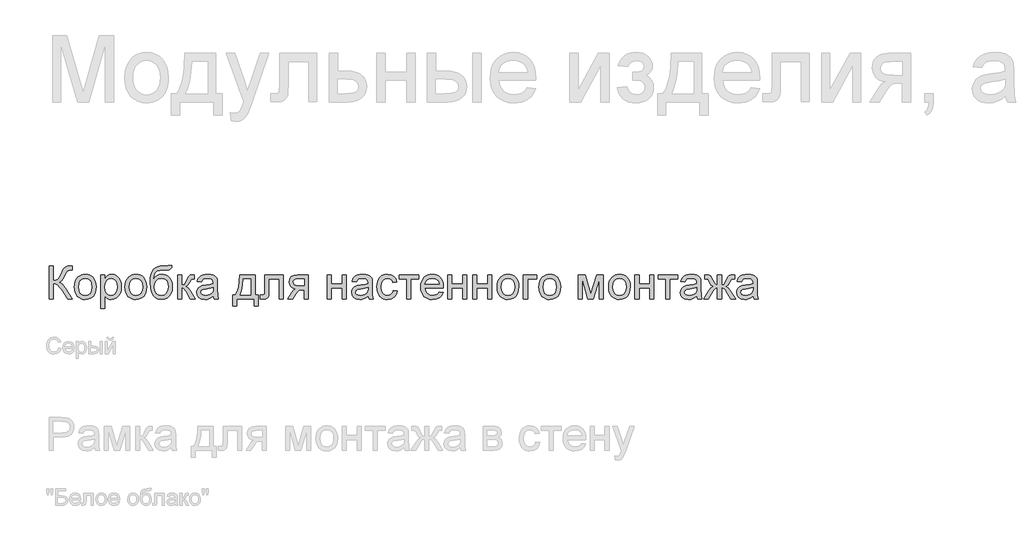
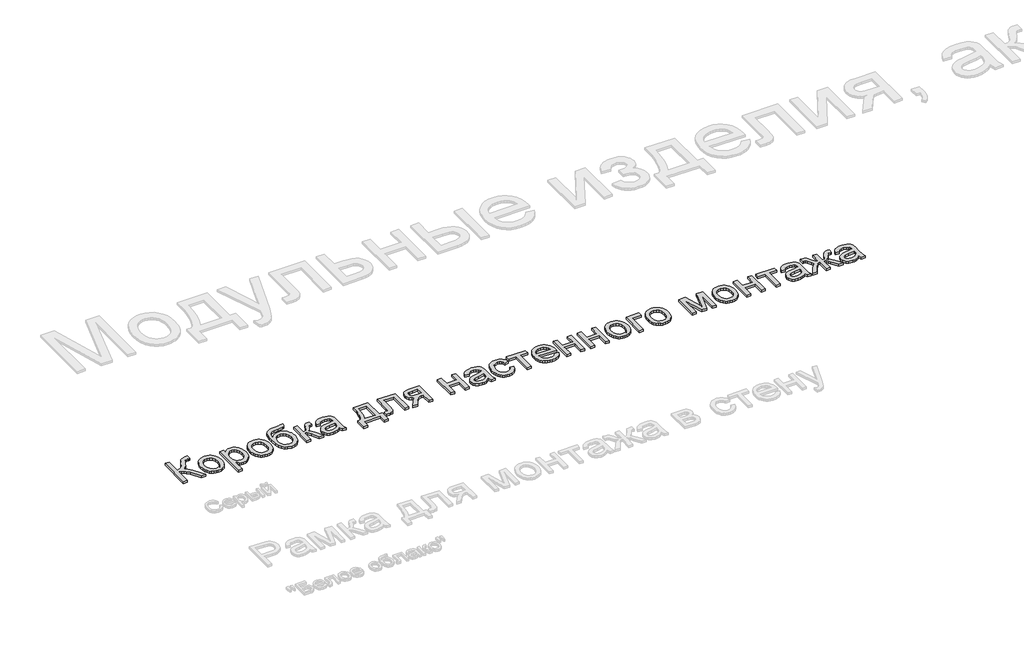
# One storey, part 95 of 168: 1 proxy.
"""IFC4 building model written with IfcOpenShell, lengths in millimetres."""

from ifc_helpers import new_model, si_unit, origin, origin_with_axes, place, context, project, spatial, polyline, outline, extrude, element, save

model = new_model("IFC4")

# Units and contexts
model_context = context("Model", 3, world=origin())
ifc_project = project(units=[si_unit("LENGTHUNIT", "METRE", prefix="MILLI")], contexts=[model_context])

# Site, building, storey
site = spatial("IfcSite", under=ifc_project)
building = spatial("IfcBuilding", under=site)
storey = spatial("IfcBuildingStorey", under=building, Name="Этаж 01", Elevation=0.0)

# Proxy
placement = place(None, origin())
element("IfcBuildingElementProxy", 1, Name="300 мм Arial 2", ObjectType="300 мм Arial 2", at=placement, inside=storey, context=model_context, shape_type="SweptSolid", body=[
    extrude(outline(polyline([(32899.0945017, -30665.4933673), (32936.765618, -30665.4933673), (32936.765618, -30797.3422744), (32962.2690373, -30794.8498738), (32978.8881064, -30787.3726723), (32992.3249963, -30769.7787159), (33008.2818778, -30736.9360507), (33029.0672106, -30694.8135623), (33039.0919949, -30683.4000234), (33052.6116582, -30673.9546532), (33068.6605103, -30667.6086888), (33086.2728608, -30665.4933673), (33110.9945309, -30665.9348257), (33110.9945309, -30703.605942), (33102.6803978, -30703.3852128), (33094.3662647, -30703.1644836), (33077.1125991, -30705.4269579), (33064.9357051, -30712.2143807), (33054.4510682, -30726.469808), (33042.5684798, -30750.989143), (33027.9911557, -30781.5233486), (33015.8970351, -30798.2251911), (32989.8877781, -30813.8233877), (33004.4788977, -30820.0313964), (33018.9688498, -30830.8563241), (33047.6452513, -30866.3569367), (33110.9945309, -30966.8622977), (33067.2901499, -30966.8622977), (33013.7265314, -30881.9551332), (32993.0423662, -30854.7226686), (32976.0186268, -30837.6253528), (32958.6086114, -30828.6030469), (32936.765618, -30825.5956116), (32936.765618, -30966.8622977), (32899.0945017, -30966.8622977), (32899.0945017, -30665.4933673)])), origin_with_axes(), (0.0, 0.0, 1.0), 20.0),
    extrude(outline(polyline([(33129.830089, -30856.2033936), (33131.8672356, -30827.5407876), (33137.9786752, -30802.8421102), (33148.164408, -30782.1073612), (33162.4244338, -30765.3365408), (33176.7810287, -30754.6173791), (33192.6275456, -30746.9608351), (33209.9639846, -30742.3669087), (33228.7903457, -30740.8355999), (33249.5733792, -30742.7003018), (33268.3652514, -30748.2944073), (33285.1659622, -30757.6179167), (33299.9755118, -30770.6708297), (33312.0627346, -30787.0116881), (33320.6964652, -30806.1990334), (33325.8767035, -30828.2328656), (33327.6034496, -30853.1131848), (33324.5500291, -30891.1705772), (33315.3897674, -30920.1412843), (33300.389379, -30941.837125), (33279.8155785, -30958.069918), (33255.3790169, -30968.19587), (33228.7903457, -30971.5711873), (33207.7038096, -30969.7133832), (33188.7371935, -30964.139971), (33171.8904974, -30954.8509506), (33157.1637213, -30941.8463221), (33145.2052572, -30925.3468146), (33136.6634971, -30905.5731573), (33131.538441, -30882.5253503), (33129.830089, -30856.2033936)]), holes=[polyline([(33167.5012053, -30856.1298172), (33171.860607, -30890.2232811), (33184.9388119, -30914.5126898), (33204.6204987, -30929.0532257), (33228.7903457, -30933.900071), (33252.8498282, -30929.0256345), (33272.4947268, -30914.4023252), (33285.5729317, -30889.7910197), (33289.9323333, -30854.9525948), (33285.5453405, -30821.8524123), (33272.3843622, -30797.8940973), (33252.7118725, -30783.3535615), (33228.7903457, -30778.5067162), (33204.6204987, -30783.3351674), (33184.9388119, -30797.820521), (33171.860607, -30822.0547474), (33167.5012053, -30856.1298172)])]), origin_with_axes(), (0.0, 0.0, 1.0), 20.0),
    extrude(outline(polyline([(33369.9834555, -31051.6223094), (33369.9834555, -30745.5444894), (33407.6545718, -30745.5444894), (33407.6545718, -30782.4798418), (33419.9418304, -30764.2604859), (33433.700617, -30751.2466604), (33449.740272, -30743.438365), (33468.8701358, -30740.8355999), (33494.345964, -30744.4776316), (33516.6212188, -30755.4037269), (33534.7578011, -30772.9516981), (33547.817612, -30796.4593576), (33555.7086807, -30824.2160541), (33558.339037, -30854.5111364), (33555.3683899, -30886.7284021), (33546.4564486, -30915.5427594), (33531.8883216, -30939.4918773), (33511.9491174, -30957.1134249), (33488.7265665, -30967.9567467), (33464.308399, -30971.5711873), (33446.9903541, -30969.1523632), (33431.5301133, -30961.8958908), (33418.2955585, -30950.9422044), (33407.6545718, -30937.4317381), (33407.6545718, -31051.6223094), (33369.9834555, -31051.6223094)]), holes=[polyline([(33407.6545718, -30857.9692272), (33411.7288649, -30891.7407943), (33423.9517442, -30915.3588184), (33441.987159, -30929.2647578), (33463.4990587, -30933.900071), (33485.3604462, -30929.0992109), (33503.8557135, -30914.6966308), (33516.4648689, -30890.214084), (33520.6679207, -30855.173324), (33516.5660365, -30821.5856978), (33504.2603837, -30797.63658), (33486.2525601, -30783.2891821), (33465.044163, -30778.5067162), (33443.7529926, -30783.5926848), (33425.0553902, -30798.8505905), (33412.0047764, -30823.8021869), (33407.6545718, -30857.9692272)])]), origin_with_axes(), (0.0, 0.0, 1.0), 20.0),
    extrude(outline(polyline([(33591.3012638, -30856.2033936), (33593.3384103, -30827.5407876), (33599.44985, -30802.8421102), (33609.6355827, -30782.1073612), (33623.8956086, -30765.3365408), (33638.2522034, -30754.6173791), (33654.0987204, -30746.9608351), (33671.4351594, -30742.3669087), (33690.2615205, -30740.8355999), (33711.0445539, -30742.7003018), (33729.8364261, -30748.2944073), (33746.637137, -30757.6179167), (33761.4466866, -30770.6708297), (33773.5339094, -30787.0116881), (33782.1676399, -30806.1990334), (33787.3478783, -30828.2328656), (33789.0746244, -30853.1131848), (33786.0212038, -30891.1705772), (33776.8609421, -30920.1412843), (33761.8605538, -30941.837125), (33741.2867532, -30958.069918), (33716.8501917, -30968.19587), (33690.2615205, -30971.5711873), (33669.1749844, -30969.7133832), (33650.2083683, -30964.139971), (33633.3616721, -30954.8509506), (33618.634896, -30941.8463221), (33606.6764319, -30925.3468146), (33598.1346718, -30905.5731573), (33593.0096158, -30882.5253503), (33591.3012638, -30856.2033936)]), holes=[polyline([(33628.9723801, -30856.1298172), (33633.3317817, -30890.2232811), (33646.4099867, -30914.5126898), (33666.0916734, -30929.0532257), (33690.2615205, -30933.900071), (33714.321003, -30929.0256345), (33733.9659015, -30914.4023252), (33747.0441064, -30889.7910197), (33751.4035081, -30854.9525948), (33747.0165153, -30821.8524123), (33733.8555369, -30797.8940973), (33714.1830472, -30783.3535615), (33690.2615205, -30778.5067162), (33666.0916734, -30783.3351674), (33646.4099867, -30797.820521), (33633.3317817, -30822.0547474), (33628.9723801, -30856.1298172)])]), origin_with_axes(), (0.0, 0.0, 1.0), 20.0),
    extrude(outline(polyline([(33986.847985, -30660.7844777), (34019.8102118, -30660.7844777), (34016.2417564, -30678.6911339), (34010.0981271, -30690.1782492), (34001.5816589, -30696.974869), (33990.8946869, -30700.8100388), (33944.7622847, -30703.1644836), (33906.456572, -30705.3349874), (33882.6270158, -30711.8464987), (33868.3715884, -30723.1404759), (33858.7882625, -30739.6583775), (33853.1504709, -30761.5289621), (33850.7316468, -30788.8809885), (33865.8791879, -30767.8381383), (33883.3627798, -30752.8285529), (33903.2008163, -30743.8338382), (33925.4116918, -30740.8355999), (33945.9349086, -30742.7416885), (33964.6095184, -30748.4599542), (33981.4355211, -30757.9903972), (33996.4129169, -30771.3330173), (34008.7093726, -30787.9267945), (34017.4925552, -30807.2107089), (34022.7624648, -30829.1847603), (34024.5191013, -30853.8489488), (34021.0334194, -30889.8094138), (34010.5763737, -30918.6697564), (33995.336862, -30941.101361), (33977.5037823, -30957.7756125), (33954.9158278, -30968.1222936), (33925.4116918, -30971.5711873), (33891.4101984, -30967.1290122), (33865.9251732, -30953.8024869), (33847.1723885, -30933.5505831), (33833.3676166, -30908.3322723), (33824.8695425, -30870.3576533), (33822.0368512, -30811.836825), (33823.8233781, -30772.1722481), (33829.1829589, -30739.55721), (33838.1155936, -30713.9917106), (33850.6212822, -30695.4757499), (33866.8333819, -30682.3584575), (33886.8852499, -30672.9889629), (33910.7768862, -30667.3672662), (33938.5082908, -30665.4933673), (33980.4468383, -30664.6472387), (33986.847985, -30660.7844777)]), holes=[polyline([(33986.847985, -30852.6717264), (33982.7644949, -30823.0296347), (33970.5140244, -30799.2920489), (33950.8323377, -30783.7030494), (33924.4551986, -30778.5067162), (33896.9560195, -30783.997355), (33885.8689758, -30790.8606535), (33876.5569628, -30800.4692713), (33863.9202163, -30826.1198434), (33859.7079675, -30859.1464495), (33864.3616747, -30891.1613802), (33878.3227964, -30914.6598426), (33899.1081291, -30929.0900139), (33924.2344694, -30933.900071), (33949.4895684, -30928.3358558), (33969.4839548, -30911.6432103), (33982.5069775, -30885.7719089), (33986.847985, -30852.6717264)])]), origin_with_axes(), (0.0, 0.0, 1.0), 20.0),
    extrude(outline(polyline([(34071.6079967, -30745.5444894), (34109.279113, -30745.5444894), (34109.279113, -30839.7222802), (34124.6013981, -30838.030023), (34134.5158179, -30832.9532515), (34143.2898034, -30819.7094997), (34155.190786, -30793.5163016), (34172.3708752, -30759.4872171), (34187.5276134, -30748.413969), (34215.0819748, -30745.5444894), (34222.2924619, -30745.5444894), (34222.2924619, -30783.4363349), (34212.1389188, -30783.2156057), (34193.7448191, -30787.1887313), (34180.7953729, -30811.9839778), (34165.6018465, -30838.8025752), (34144.3014789, -30851.9359624), (34156.2392497, -30857.2380617), (34168.0666558, -30866.5960599), (34191.3903743, -30897.4797534), (34231.710241, -30966.8622977), (34188.8887767, -30966.8622977), (34149.3782505, -30898.9512814), (34129.5126227, -30870.2196976), (34120.2236023, -30865.0049703), (34109.279113, -30863.2667279), (34109.279113, -30966.8622977), (34071.6079967, -30966.8622977), (34071.6079967, -30745.5444894)])), origin_with_axes(), (0.0, 0.0, 1.0), 20.0),
    extrude(outline(polyline([(34396.5213748, -30938.6089605), (34378.5227482, -30954.0416102), (34359.9906927, -30964.139971), (34340.502144, -30969.7133832), (34319.6340378, -30971.5711873), (34288.1525361, -30967.101421), (34264.9299852, -30953.6921223), (34250.6101785, -30933.3298539), (34245.8369096, -30908.0011785), (34247.6395314, -30892.3845878), (34253.0473967, -30878.2027369), (34261.3891209, -30866.0626311), (34271.9933195, -30856.5712756), (34298.3704585, -30844.2104405), (34330.9648033, -30838.5450578), (34369.4820482, -30832.5853695), (34396.3006456, -30825.5956116), (34396.5213748, -30817.2079021), (34393.9278068, -30800.3956949), (34386.1471026, -30789.3960233), (34368.7462842, -30781.229043), (34344.5028607, -30778.5067162), (34322.062059, -30780.318535), (34306.390286, -30785.7539915), (34295.703314, -30795.806367), (34288.2169154, -30811.468943), (34250.5457991, -30806.7600534), (34257.0849016, -30786.1586617), (34266.8429715, -30769.9718539), (34280.7305168, -30757.5926248), (34299.6580455, -30748.413969), (34322.80702, -30742.7301922), (34349.358903, -30740.8355999), (34374.8255342, -30742.509463), (34395.0130586, -30747.5310522), (34410.2341762, -30755.0818302), (34420.8015865, -30764.3432594), (34427.8097385, -30775.7935865), (34432.3530812, -30789.9110581), (34434.1924911, -30822.8732848), (34434.1924911, -30869.741451), (34436.1054775, -30935.1876579), (34443.6102702, -30966.8622977), (34405.9391539, -30966.8622977), (34396.5213748, -30938.6089605)]), holes=[polyline([(34396.5213748, -30863.2667279), (34335.7472692, -30874.8182225), (34303.3368654, -30880.9250637), (34288.6583738, -30890.8578775), (34283.5080259, -30905.3524281), (34286.3131261, -30916.5544349), (34294.7284268, -30925.7330907), (34308.5699868, -30931.8583259), (34327.6538653, -30933.900071), (34347.8873751, -30931.6467937), (34365.76644, -30924.8869621), (34380.2609906, -30914.9265571), (34390.3409573, -30903.0715598), (34394.8107235, -30890.8578775), (34396.3006456, -30873.9353058), (34396.5213748, -30863.2667279)])]), origin_with_axes(), (0.0, 0.0, 1.0), 20.0),
    extrude(outline(polyline([(34636.6747413, -30745.5444894), (34777.9414274, -30745.5444894), (34777.9414274, -30929.1911814), (34806.1947647, -30929.1911814), (34806.1947647, -31028.0778617), (34768.5236483, -31028.0778617), (34768.5236483, -30966.8622977), (34613.1302936, -30966.8622977), (34613.1302936, -31028.0778617), (34575.4591773, -31028.0778617), (34575.4591773, -30929.1911814), (34599.003625, -30929.1911814), (34616.1193348, -30898.2615027), (34628.1030908, -30857.3438278), (34634.9548929, -30806.4381567), (34636.6747413, -30745.5444894)]), holes=[polyline([(34669.636968, -30783.2156057), (34666.5467593, -30829.3388109), (34660.8078002, -30869.0424752), (34652.4200907, -30902.3265987), (34641.3836308, -30929.1911814), (34740.2703111, -30929.1911814), (34740.2703111, -30783.2156057), (34669.636968, -30783.2156057)])]), origin_with_axes(), (0.0, 0.0, 1.0), 20.0),
    extrude(outline(polyline([(34867.4103287, -30745.5444894), (35036.930352, -30745.5444894), (35036.930352, -30966.6415685), (34999.2592357, -30966.6415685), (34999.2592357, -30783.2156057), (34905.081445, -30783.2156057), (34905.081445, -30888.7977384), (34902.5430592, -30937.5053145), (34897.7881844, -30948.5325773), (34888.6003316, -30958.069918), (34874.657604, -30964.6642028), (34855.6381048, -30966.8622977), (34825.0303228, -30964.9493114), (34825.0303228, -30929.1911814), (34841.8793182, -30929.1911814), (34858.9122546, -30926.8735249), (34865.7180715, -30919.515885), (34867.4103287, -30886.6640228), (34867.4103287, -30745.5444894)])), origin_with_axes(), (0.0, 0.0, 1.0), 20.0),
    extrude(outline(polyline([(35262.9570499, -30745.5444894), (35262.9570499, -30966.8622977), (35225.2859336, -30966.8622977), (35225.2859336, -30882.102286), (35204.7581182, -30882.102286), (35176.7990866, -30886.884752), (35165.633868, -30897.3142065), (35150.5323121, -30919.0376384), (35120.5131413, -30966.8622977), (35076.9559131, -30966.8622977), (35114.7741822, -30906.3824977), (35131.4760248, -30884.67746), (35146.8534922, -30875.0389517), (35121.1017525, -30867.1478829), (35103.0019584, -30852.1566916), (35092.2965923, -30832.2174875), (35088.728137, -30809.4823802), (35093.6025734, -30783.6938523), (35108.2258827, -30763.2764016), (35132.0830301, -30749.9774675), (35164.6589808, -30745.5444894), (35262.9570499, -30745.5444894)]), holes=[polyline([(35225.2859336, -30783.2156057), (35175.6218642, -30783.2156057), (35149.9712921, -30785.3953066), (35135.4123621, -30791.934409), (35128.6525305, -30801.3981734), (35126.3992533, -30812.3518598), (35129.7193883, -30826.7084546), (35139.6797933, -30836.6688596), (35158.0830901, -30842.4905922), (35186.7319005, -30844.4311697), (35225.2859336, -30844.4311697), (35225.2859336, -30783.2156057)])]), origin_with_axes(), (0.0, 0.0, 1.0), 20.0),
    extrude(outline(polyline([(35437.1859628, -30745.5444894), (35474.8570791, -30745.5444894), (35474.8570791, -30830.3045011), (35573.7437594, -30830.3045011), (35573.7437594, -30745.5444894), (35611.4148757, -30745.5444894), (35611.4148757, -30966.8622977), (35573.7437594, -30966.8622977), (35573.7437594, -30867.9756174), (35474.8570791, -30867.9756174), (35474.8570791, -30966.8622977), (35437.1859628, -30966.8622977), (35437.1859628, -30745.5444894)])), origin_with_axes(), (0.0, 0.0, 1.0), 20.0),
    extrude(outline(polyline([(35809.1882363, -30938.6089605), (35791.1896097, -30954.0416102), (35772.6575542, -30964.139971), (35753.1690055, -30969.7133832), (35732.3008993, -30971.5711873), (35700.8193976, -30967.101421), (35677.5968466, -30953.6921223), (35663.27704, -30933.3298539), (35658.5037711, -30908.0011785), (35660.3063929, -30892.3845878), (35665.7142582, -30878.2027369), (35674.0559824, -30866.0626311), (35684.6601809, -30856.5712756), (35711.03732, -30844.2104405), (35743.6316648, -30838.5450578), (35782.1489097, -30832.5853695), (35808.9675071, -30825.5956116), (35809.1882363, -30817.2079021), (35806.5946682, -30800.3956949), (35798.813964, -30789.3960233), (35781.4131457, -30781.229043), (35757.1697222, -30778.5067162), (35734.7289205, -30780.318535), (35719.0571475, -30785.7539915), (35708.3701755, -30795.806367), (35700.8837769, -30811.468943), (35663.2126606, -30806.7600534), (35669.7517631, -30786.1586617), (35679.509833, -30769.9718539), (35693.3973783, -30757.5926248), (35712.324907, -30748.413969), (35735.4738815, -30742.7301922), (35762.0257645, -30740.8355999), (35787.4923956, -30742.509463), (35807.6799201, -30747.5310522), (35822.9010377, -30755.0818302), (35833.468448, -30764.3432594), (35840.4766, -30775.7935865), (35845.0199426, -30789.9110581), (35846.8593526, -30822.8732848), (35846.8593526, -30869.741451), (35848.772339, -30935.1876579), (35856.2771317, -30966.8622977), (35818.6060154, -30966.8622977), (35809.1882363, -30938.6089605)]), holes=[polyline([(35809.1882363, -30863.2667279), (35748.4141307, -30874.8182225), (35716.0037269, -30880.9250637), (35701.3252353, -30890.8578775), (35696.1748874, -30905.3524281), (35698.9799876, -30916.5544349), (35707.3952882, -30925.7330907), (35721.2368483, -30931.8583259), (35740.3207268, -30933.900071), (35760.5542365, -30931.6467937), (35778.4333015, -30924.8869621), (35792.9278521, -30914.9265571), (35803.0078188, -30903.0715598), (35807.477585, -30890.8578775), (35808.9675071, -30873.9353058), (35809.1882363, -30863.2667279)])]), origin_with_axes(), (0.0, 0.0, 1.0), 20.0),
    extrude(outline(polyline([(36039.9238237, -30886.8111756), (36077.59494, -30891.5200651), (36067.091909, -30925.0249178), (36047.35504, -30950.3443962), (36020.2421369, -30966.2644895), (35987.611004, -30971.5711873), (35966.4830811, -30969.720281), (35947.5394576, -30964.1675621), (35930.7801335, -30954.9130307), (35916.2051087, -30941.9566867), (35904.407593, -30925.5422519), (35895.980796, -30905.9134482), (35890.9247178, -30883.0702755), (35889.2393585, -30857.012734), (35892.1180351, -30823.4894872), (35900.7540649, -30794.4360066), (35915.2854037, -30770.9743324), (35935.8500072, -30754.2265045), (35960.4521157, -30744.1833261), (35987.0959692, -30740.8355999), (36018.9269588, -30745.4341248), (36044.3751958, -30759.2296997), (36062.6313398, -30781.4865604), (36072.8860504, -30811.468943), (36035.2149341, -30816.1778325), (36028.3815261, -30799.7427044), (36017.7405394, -30787.9612835), (36003.8805852, -30780.870358), (35987.3902748, -30778.5067162), (35963.0456837, -30783.1604234), (35943.7226819, -30797.1215452), (35931.1135266, -30821.1442394), (35926.9104748, -30855.9826644), (35931.0215561, -30891.2901389), (35943.3547999, -30915.3956066), (35962.3283138, -30929.2739549), (35986.3602052, -30933.900071), (36005.867148, -30931.0121973), (36021.8608177, -30922.3485763), (36033.4950858, -30907.6884788), (36039.9238237, -30886.8111756)])), origin_with_axes(), (0.0, 0.0, 1.0), 20.0),
    extrude(outline(polyline([(36091.7216086, -30745.5444894), (36270.6594111, -30745.5444894), (36270.6594111, -30783.2156057), (36200.026068, -30783.2156057), (36200.026068, -30966.8622977), (36162.3549517, -30966.8622977), (36162.3549517, -30783.2156057), (36091.7216086, -30783.2156057), (36091.7216086, -30745.5444894)])), origin_with_axes(), (0.0, 0.0, 1.0), 20.0),
    extrude(outline(polyline([(36458.5735342, -30900.9378442), (36495.5088865, -30905.6467337), (36482.2007553, -30933.4770067), (36460.9647672, -30954.2807335), (36432.2791686, -30967.2485738), (36396.6222062, -30971.5711873), (36373.2479039, -30969.7064854), (36352.4211845, -30964.1123798), (36334.1420478, -30954.7888705), (36318.410494, -30941.7359575), (36305.7599519, -30925.3169242), (36296.7238504, -30905.8950541), (36291.3021895, -30883.4703472), (36289.4949692, -30858.0428036), (36291.3205836, -30831.7530365), (36296.7974268, -30808.5810693), (36305.9254988, -30788.526902), (36318.7047996, -30771.5905347), (36334.3949667, -30758.1352507), (36352.2556376, -30748.5243336), (36372.2868122, -30742.7577833), (36394.4884906, -30740.8355999), (36415.9750984, -30742.7531848), (36435.4061655, -30748.5059395), (36452.781692, -30758.093864), (36468.1016779, -30771.5169583), (36480.6073664, -30788.4165374), (36489.5400011, -30808.4339165), (36494.899582, -30831.5690955), (36496.6861089, -30857.8220744), (36496.4653797, -30867.9756174), (36327.1660855, -30867.9756174), (36333.6867939, -30896.1737724), (36348.834335, -30916.9039228), (36370.6957226, -30929.6510339), (36397.3579702, -30933.900071), (36417.4075389, -30931.9319023), (36434.2933225, -30926.0273963), (36448.0153209, -30915.8186709), (36458.5735342, -30900.9378442)]), holes=[polyline([(36327.1660855, -30830.3045011), (36459.0149926, -30830.3045011), (36453.919827, -30810.4020852), (36443.9318308, -30796.165052), (36421.9692757, -30782.9213001), (36394.3413378, -30778.5067162), (36368.9482831, -30782.0291863), (36347.9514182, -30792.5965966), (36333.3557001, -30809.068513), (36327.1660855, -30830.3045011)])]), origin_with_axes(), (0.0, 0.0, 1.0), 20.0),
    extrude(outline(polyline([(36534.3572252, -30745.5444894), (36572.0283415, -30745.5444894), (36572.0283415, -30830.3045011), (36670.9150218, -30830.3045011), (36670.9150218, -30745.5444894), (36708.5861381, -30745.5444894), (36708.5861381, -30966.8622977), (36670.9150218, -30966.8622977), (36670.9150218, -30867.9756174), (36572.0283415, -30867.9756174), (36572.0283415, -30966.8622977), (36534.3572252, -30966.8622977), (36534.3572252, -30745.5444894)])), origin_with_axes(), (0.0, 0.0, 1.0), 20.0),
    extrude(outline(polyline([(36765.0928126, -30745.5444894), (36802.7639289, -30745.5444894), (36802.7639289, -30830.3045011), (36901.6506092, -30830.3045011), (36901.6506092, -30745.5444894), (36939.3217255, -30745.5444894), (36939.3217255, -30966.8622977), (36901.6506092, -30966.8622977), (36901.6506092, -30867.9756174), (36802.7639289, -30867.9756174), (36802.7639289, -30966.8622977), (36765.0928126, -30966.8622977), (36765.0928126, -30745.5444894)])), origin_with_axes(), (0.0, 0.0, 1.0), 20.0),
    extrude(outline(polyline([(36986.4106209, -30856.2033936), (36988.4477674, -30827.5407876), (36994.5592071, -30802.8421102), (37004.7449398, -30782.1073612), (37019.0049656, -30765.3365408), (37033.3615605, -30754.6173791), (37049.2080774, -30746.9608351), (37066.5445165, -30742.3669087), (37085.3708776, -30740.8355999), (37106.153911, -30742.7003018), (37124.9457832, -30748.2944073), (37141.7464941, -30757.6179167), (37156.5560436, -30770.6708297), (37168.6432664, -30787.0116881), (37177.276997, -30806.1990334), (37182.4572354, -30828.2328656), (37184.1839815, -30853.1131848), (37181.1305609, -30891.1705772), (37171.9702992, -30920.1412843), (37156.9699109, -30941.837125), (37136.3961103, -30958.069918), (37111.9595488, -30968.19587), (37085.3708776, -30971.5711873), (37064.2843415, -30969.7133832), (37045.3177253, -30964.139971), (37028.4710292, -30954.8509506), (37013.7442531, -30941.8463221), (37001.785789, -30925.3468146), (36993.2440289, -30905.5731573), (36988.1189729, -30882.5253503), (36986.4106209, -30856.2033936)]), holes=[polyline([(37024.0817372, -30856.1298172), (37028.4411388, -30890.2232811), (37041.5193437, -30914.5126898), (37061.2010305, -30929.0532257), (37085.3708776, -30933.900071), (37109.4303601, -30929.0256345), (37129.0752586, -30914.4023252), (37142.1534635, -30889.7910197), (37146.5128652, -30854.9525948), (37142.1258724, -30821.8524123), (37128.964894, -30797.8940973), (37109.2924043, -30783.3535615), (37085.3708776, -30778.5067162), (37061.2010305, -30783.3351674), (37041.5193437, -30797.820521), (37028.4411388, -30822.0547474), (37024.0817372, -30856.1298172)])]), origin_with_axes(), (0.0, 0.0, 1.0), 20.0),
    extrude(outline(polyline([(37226.5639873, -30745.5444894), (37348.9951153, -30745.5444894), (37348.9951153, -30783.2156057), (37264.2351036, -30783.2156057), (37264.2351036, -30966.8622977), (37226.5639873, -30966.8622977), (37226.5639873, -30745.5444894)])), origin_with_axes(), (0.0, 0.0, 1.0), 20.0),
    extrude(outline(polyline([(37367.8306735, -30856.2033936), (37369.86782, -30827.5407876), (37375.9792597, -30802.8421102), (37386.1649924, -30782.1073612), (37400.4250182, -30765.3365408), (37414.7816131, -30754.6173791), (37430.62813, -30746.9608351), (37447.9645691, -30742.3669087), (37466.7909302, -30740.8355999), (37487.5739636, -30742.7003018), (37506.3658358, -30748.2944073), (37523.1665467, -30757.6179167), (37537.9760962, -30770.6708297), (37550.063319, -30787.0116881), (37558.6970496, -30806.1990334), (37563.877288, -30828.2328656), (37565.6040341, -30853.1131848), (37562.5506135, -30891.1705772), (37553.3903518, -30920.1412843), (37538.3899635, -30941.837125), (37517.8161629, -30958.069918), (37493.3796014, -30968.19587), (37466.7909302, -30971.5711873), (37445.7043941, -30969.7133832), (37426.7377779, -30964.139971), (37409.8910818, -30954.8509506), (37395.1643057, -30941.8463221), (37383.2058416, -30925.3468146), (37374.6640815, -30905.5731573), (37369.5390255, -30882.5253503), (37367.8306735, -30856.2033936)]), holes=[polyline([(37405.5017898, -30856.1298172), (37409.8611914, -30890.2232811), (37422.9393963, -30914.5126898), (37442.6210831, -30929.0532257), (37466.7909302, -30933.900071), (37490.8504127, -30929.0256345), (37510.4953112, -30914.4023252), (37523.5735161, -30889.7910197), (37527.9329178, -30854.9525948), (37523.545925, -30821.8524123), (37510.3849466, -30797.8940973), (37490.7124569, -30783.3535615), (37466.7909302, -30778.5067162), (37442.6210831, -30783.3351674), (37422.9393963, -30797.820521), (37409.8611914, -30822.0547474), (37405.5017898, -30856.1298172)])]), origin_with_axes(), (0.0, 0.0, 1.0), 20.0),
    extrude(outline(polyline([(37725.7062784, -30745.5444894), (37790.5270859, -30745.5444894), (37840.4854609, -30922.7164583), (37894.343385, -30745.5444894), (37956.4418658, -30745.5444894), (37956.4418658, -30966.8622977), (37918.7707494, -30966.8622977), (37918.7707494, -30788.6602593), (37864.6185198, -30966.8622977), (37815.1751796, -30966.8622977), (37763.3773947, -30780.125397), (37763.3773947, -30966.8622977), (37725.7062784, -30966.8622977), (37725.7062784, -30745.5444894)])), origin_with_axes(), (0.0, 0.0, 1.0), 20.0),
    extrude(outline(polyline([(38003.5307611, -30856.2033936), (38005.5679077, -30827.5407876), (38011.6793473, -30802.8421102), (38021.8650801, -30782.1073612), (38036.1251059, -30765.3365408), (38050.4817008, -30754.6173791), (38066.3282177, -30746.9608351), (38083.6646567, -30742.3669087), (38102.4910178, -30740.8355999), (38123.2740513, -30742.7003018), (38142.0659235, -30748.2944073), (38158.8666343, -30757.6179167), (38173.6761839, -30770.6708297), (38185.7634067, -30787.0116881), (38194.3971373, -30806.1990334), (38199.5773756, -30828.2328656), (38201.3041217, -30853.1131848), (38198.2507012, -30891.1705772), (38189.0904395, -30920.1412843), (38174.0900511, -30941.837125), (38153.5162506, -30958.069918), (38129.079689, -30968.19587), (38102.4910178, -30971.5711873), (38081.4044817, -30969.7133832), (38062.4378656, -30964.139971), (38045.5911695, -30954.8509506), (38030.8643934, -30941.8463221), (38018.9059293, -30925.3468146), (38010.3641692, -30905.5731573), (38005.2391131, -30882.5253503), (38003.5307611, -30856.2033936)]), holes=[polyline([(38041.2018774, -30856.1298172), (38045.5612791, -30890.2232811), (38058.639484, -30914.5126898), (38078.3211708, -30929.0532257), (38102.4910178, -30933.900071), (38126.5505003, -30929.0256345), (38146.1953989, -30914.4023252), (38159.2736038, -30889.7910197), (38163.6330054, -30854.9525948), (38159.2460126, -30821.8524123), (38146.0850343, -30797.8940973), (38126.4125446, -30783.3535615), (38102.4910178, -30778.5067162), (38078.3211708, -30783.3351674), (38058.639484, -30797.820521), (38045.5612791, -30822.0547474), (38041.2018774, -30856.1298172)])]), origin_with_axes(), (0.0, 0.0, 1.0), 20.0),
    extrude(outline(polyline([(38243.6841276, -30745.5444894), (38281.3552439, -30745.5444894), (38281.3552439, -30830.3045011), (38380.2419242, -30830.3045011), (38380.2419242, -30745.5444894), (38417.9130405, -30745.5444894), (38417.9130405, -30966.8622977), (38380.2419242, -30966.8622977), (38380.2419242, -30867.9756174), (38281.3552439, -30867.9756174), (38281.3552439, -30966.8622977), (38243.6841276, -30966.8622977), (38243.6841276, -30745.5444894)])), origin_with_axes(), (0.0, 0.0, 1.0), 20.0),
    extrude(outline(polyline([(38455.5841568, -30745.5444894), (38634.5219593, -30745.5444894), (38634.5219593, -30783.2156057), (38563.8886162, -30783.2156057), (38563.8886162, -30966.8622977), (38526.2174999, -30966.8622977), (38526.2174999, -30783.2156057), (38455.5841568, -30783.2156057), (38455.5841568, -30745.5444894)])), origin_with_axes(), (0.0, 0.0, 1.0), 20.0),
    extrude(outline(polyline([(38808.7508722, -30938.6089605), (38790.7522456, -30954.0416102), (38772.2201901, -30964.139971), (38752.7316414, -30969.7133832), (38731.8635352, -30971.5711873), (38700.3820334, -30967.101421), (38677.1594825, -30953.6921223), (38662.8396758, -30933.3298539), (38658.066407, -30908.0011785), (38659.8690287, -30892.3845878), (38665.2768941, -30878.2027369), (38673.6186183, -30866.0626311), (38684.2228168, -30856.5712756), (38710.5999559, -30844.2104405), (38743.1943006, -30838.5450578), (38781.7115455, -30832.5853695), (38808.530143, -30825.5956116), (38808.7508722, -30817.2079021), (38806.1573041, -30800.3956949), (38798.3765999, -30789.3960233), (38780.9757815, -30781.229043), (38756.7323581, -30778.5067162), (38734.2915564, -30780.318535), (38718.6197834, -30785.7539915), (38707.9328114, -30795.806367), (38700.4464128, -30811.468943), (38662.7752965, -30806.7600534), (38669.314399, -30786.1586617), (38679.0724689, -30769.9718539), (38692.9600142, -30757.5926248), (38711.8875428, -30748.413969), (38735.0365174, -30742.7301922), (38761.5884004, -30740.8355999), (38787.0550315, -30742.509463), (38807.242556, -30747.5310522), (38822.4636735, -30755.0818302), (38833.0310839, -30764.3432594), (38840.0392359, -30775.7935865), (38844.5825785, -30789.9110581), (38846.4219885, -30822.8732848), (38846.4219885, -30869.741451), (38848.3349749, -30935.1876579), (38855.8397676, -30966.8622977), (38818.1686513, -30966.8622977), (38808.7508722, -30938.6089605)]), holes=[polyline([(38808.7508722, -30863.2667279), (38747.9767666, -30874.8182225), (38715.5663628, -30880.9250637), (38700.8878712, -30890.8578775), (38695.7375233, -30905.3524281), (38698.5426235, -30916.5544349), (38706.9579241, -30925.7330907), (38720.7994842, -30931.8583259), (38739.8833627, -30933.900071), (38760.1168724, -30931.6467937), (38777.9959374, -30924.8869621), (38792.490488, -30914.9265571), (38802.5704547, -30903.0715598), (38807.0402209, -30890.8578775), (38808.530143, -30873.9353058), (38808.7508722, -30863.2667279)])]), origin_with_axes(), (0.0, 0.0, 1.0), 20.0),
    extrude(outline(polyline([(39034.77757, -30745.5444894), (39034.77757, -30839.7222802), (39048.0673071, -30837.7817027), (39056.7401251, -30831.9599701), (39077.5254579, -30791.6768916), (39090.4932982, -30766.5689455), (39102.3207043, -30753.0492821), (39116.6864962, -30747.4206876), (39137.5637995, -30745.5444894), (39152.4998085, -30745.5444894), (39152.4998085, -30783.4363349), (39142.1255362, -30783.2156057), (39122.7013669, -30787.1151549), (39109.2368858, -30811.5425194), (39093.601901, -30838.3243286), (39071.2714639, -30851.9359624), (39083.6644886, -30857.2380617), (39095.9011635, -30866.5960599), (39119.9054637, -30897.4797534), (39161.9175875, -30966.8622977), (39118.7282413, -30966.8622977), (39077.3783051, -30898.4362466), (39066.0751308, -30880.4744082), (39056.2986667, -30869.9989684), (39046.4118381, -30864.949788), (39034.77757, -30863.2667279), (39034.77757, -30966.8622977), (38997.1064537, -30966.8622977), (38997.1064537, -30863.2667279), (38985.5641561, -30864.9129998), (38975.6589334, -30869.8518156), (38965.808893, -30880.253679), (38954.4321423, -30898.2890938), (38913.082206, -30966.8622977), (38869.9664362, -30966.8622977), (38911.8314072, -30897.4797534), (38936.0196484, -30866.5960599), (38948.3207026, -30857.2380617), (38960.7597126, -30851.9359624), (38946.3755266, -30844.7254753), (38937.0681121, -30836.926377), (38916.761026, -30798.2987675), (38906.8282121, -30785.5700505), (38890.5678279, -30782.9948765), (38879.3842153, -30783.2156057), (38879.3842153, -30745.5444894), (38885.049598, -30745.5444894), (38918.0854011, -30747.8989342), (38935.2287021, -30757.9053245), (38954.4321423, -30791.6768916), (38974.9967458, -30831.7024527), (38983.6695638, -30837.7173233), (38997.1064537, -30839.7222802), (38997.1064537, -30745.5444894), (39034.77757, -30745.5444894)])), origin_with_axes(), (0.0, 0.0, 1.0), 20.0),
    extrude(outline(polyline([(39322.0198318, -30938.6089605), (39304.0212052, -30954.0416102), (39285.4891497, -30964.139971), (39266.000601, -30969.7133832), (39245.1324949, -30971.5711873), (39213.6509931, -30967.101421), (39190.4284422, -30953.6921223), (39176.1086355, -30933.3298539), (39171.3353666, -30908.0011785), (39173.1379884, -30892.3845878), (39178.5458537, -30878.2027369), (39186.887578, -30866.0626311), (39197.4917765, -30856.5712756), (39223.8689155, -30844.2104405), (39256.4632603, -30838.5450578), (39294.9805052, -30832.5853695), (39321.7991027, -30825.5956116), (39322.0198318, -30817.2079021), (39319.4262638, -30800.3956949), (39311.6455596, -30789.3960233), (39294.2447412, -30781.229043), (39270.0013177, -30778.5067162), (39247.560516, -30780.318535), (39231.888743, -30785.7539915), (39221.2017711, -30795.806367), (39213.7153725, -30811.468943), (39176.0442562, -30806.7600534), (39182.5833586, -30786.1586617), (39192.3414285, -30769.9718539), (39206.2289739, -30757.5926248), (39225.1565025, -30748.413969), (39248.3054771, -30742.7301922), (39274.8573601, -30740.8355999), (39300.3239912, -30742.509463), (39320.5115157, -30747.5310522), (39335.7326332, -30755.0818302), (39346.3000435, -30764.3432594), (39353.3081955, -30775.7935865), (39357.8515382, -30789.9110581), (39359.6909482, -30822.8732848), (39359.6909482, -30869.741451), (39361.6039345, -30935.1876579), (39369.1087272, -30966.8622977), (39331.4376109, -30966.8622977), (39322.0198318, -30938.6089605)]), holes=[polyline([(39322.0198318, -30863.2667279), (39261.2457262, -30874.8182225), (39228.8353225, -30880.9250637), (39214.1568309, -30890.8578775), (39209.0064829, -30905.3524281), (39211.8115831, -30916.5544349), (39220.2268838, -30925.7330907), (39234.0684439, -30931.8583259), (39253.1523224, -30933.900071), (39273.3858321, -30931.6467937), (39291.2648971, -30924.8869621), (39305.7594477, -30914.9265571), (39315.8394143, -30903.0715598), (39320.3091806, -30890.8578775), (39321.7991027, -30873.9353058), (39322.0198318, -30863.2667279)])]), origin_with_axes(), (0.0, 0.0, 1.0), 20.0),
])

save(model, "model.ifc")
